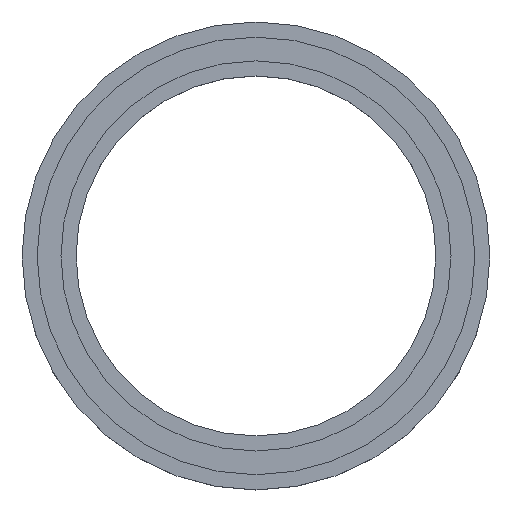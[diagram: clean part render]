
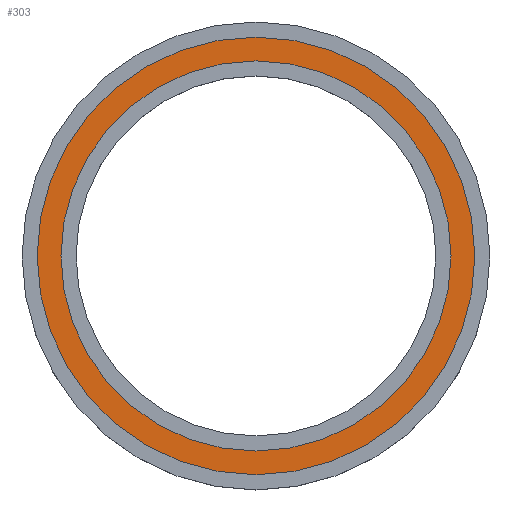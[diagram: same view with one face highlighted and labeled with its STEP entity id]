
A CAD part, top view. The second image highlights one B-rep face of the part: STEP entity #303.
In plain terms, the highlighted planar face has unit normal (0, 0, 1).
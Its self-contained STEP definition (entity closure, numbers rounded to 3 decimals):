
#147 = CYLINDRICAL_SURFACE('',#148,24.32);
#148 = AXIS2_PLACEMENT_3D('',#149,#150,#151);
#149 = CARTESIAN_POINT('',(0.,0.,6.75));
#150 = DIRECTION('',(0.,0.,1.));
#151 = DIRECTION('',(1.,0.,-0.));
#199 = VERTEX_POINT('',#200);
#200 = CARTESIAN_POINT('',(24.32,0.,6.75));
#221 = EDGE_CURVE('',#199,#199,#222,.T.);
#222 = SURFACE_CURVE('',#223,(#228,#235),.PCURVE_S1.);
#223 = CIRCLE('',#224,24.32);
#224 = AXIS2_PLACEMENT_3D('',#225,#226,#227);
#225 = CARTESIAN_POINT('',(0.,0.,6.75));
#226 = DIRECTION('',(0.,0.,1.));
#227 = DIRECTION('',(1.,0.,-0.));
#228 = PCURVE('',#147,#229);
#229 = DEFINITIONAL_REPRESENTATION('',(#230),#234);
#230 = LINE('',#231,#232);
#231 = CARTESIAN_POINT('',(0.,0.));
#232 = VECTOR('',#233,1.);
#233 = DIRECTION('',(1.,0.));
#234 = ( GEOMETRIC_REPRESENTATION_CONTEXT(2) 
PARAMETRIC_REPRESENTATION_CONTEXT() REPRESENTATION_CONTEXT('2D SPACE',''
  ) );
#235 = PCURVE('',#236,#241);
#236 = PLANE('',#237);
#237 = AXIS2_PLACEMENT_3D('',#238,#239,#240);
#238 = CARTESIAN_POINT('',(0.,0.,6.75));
#239 = DIRECTION('',(0.,0.,1.));
#240 = DIRECTION('',(1.,0.,-0.));
#241 = DEFINITIONAL_REPRESENTATION('',(#242),#246);
#242 = CIRCLE('',#243,24.32);
#243 = AXIS2_PLACEMENT_2D('',#244,#245);
#244 = CARTESIAN_POINT('',(0.,0.));
#245 = DIRECTION('',(1.,0.));
#246 = ( GEOMETRIC_REPRESENTATION_CONTEXT(2) 
PARAMETRIC_REPRESENTATION_CONTEXT() REPRESENTATION_CONTEXT('2D SPACE',''
  ) );
#303 = ADVANCED_FACE('',(#304,#307),#236,.T.);
#304 = FACE_BOUND('',#305,.T.);
#305 = EDGE_LOOP('',(#306));
#306 = ORIENTED_EDGE('',*,*,#221,.T.);
#307 = FACE_BOUND('',#308,.T.);
#308 = EDGE_LOOP('',(#309));
#309 = ORIENTED_EDGE('',*,*,#310,.F.);
#310 = EDGE_CURVE('',#311,#311,#313,.T.);
#311 = VERTEX_POINT('',#312);
#312 = CARTESIAN_POINT('',(21.68,0.,6.75));
#313 = SURFACE_CURVE('',#314,(#319,#326),.PCURVE_S1.);
#314 = CIRCLE('',#315,21.68);
#315 = AXIS2_PLACEMENT_3D('',#316,#317,#318);
#316 = CARTESIAN_POINT('',(0.,0.,6.75));
#317 = DIRECTION('',(0.,0.,1.));
#318 = DIRECTION('',(1.,0.,-0.));
#319 = PCURVE('',#236,#320);
#320 = DEFINITIONAL_REPRESENTATION('',(#321),#325);
#321 = CIRCLE('',#322,21.68);
#322 = AXIS2_PLACEMENT_2D('',#323,#324);
#323 = CARTESIAN_POINT('',(0.,0.));
#324 = DIRECTION('',(1.,0.));
#325 = ( GEOMETRIC_REPRESENTATION_CONTEXT(2) 
PARAMETRIC_REPRESENTATION_CONTEXT() REPRESENTATION_CONTEXT('2D SPACE',''
  ) );
#326 = PCURVE('',#327,#332);
#327 = CYLINDRICAL_SURFACE('',#328,21.68);
#328 = AXIS2_PLACEMENT_3D('',#329,#330,#331);
#329 = CARTESIAN_POINT('',(0.,0.,5.75));
#330 = DIRECTION('',(0.,0.,1.));
#331 = DIRECTION('',(1.,0.,-0.));
#332 = DEFINITIONAL_REPRESENTATION('',(#333),#337);
#333 = LINE('',#334,#335);
#334 = CARTESIAN_POINT('',(0.,1.));
#335 = VECTOR('',#336,1.);
#336 = DIRECTION('',(1.,0.));
#337 = ( GEOMETRIC_REPRESENTATION_CONTEXT(2) 
PARAMETRIC_REPRESENTATION_CONTEXT() REPRESENTATION_CONTEXT('2D SPACE',''
  ) );
